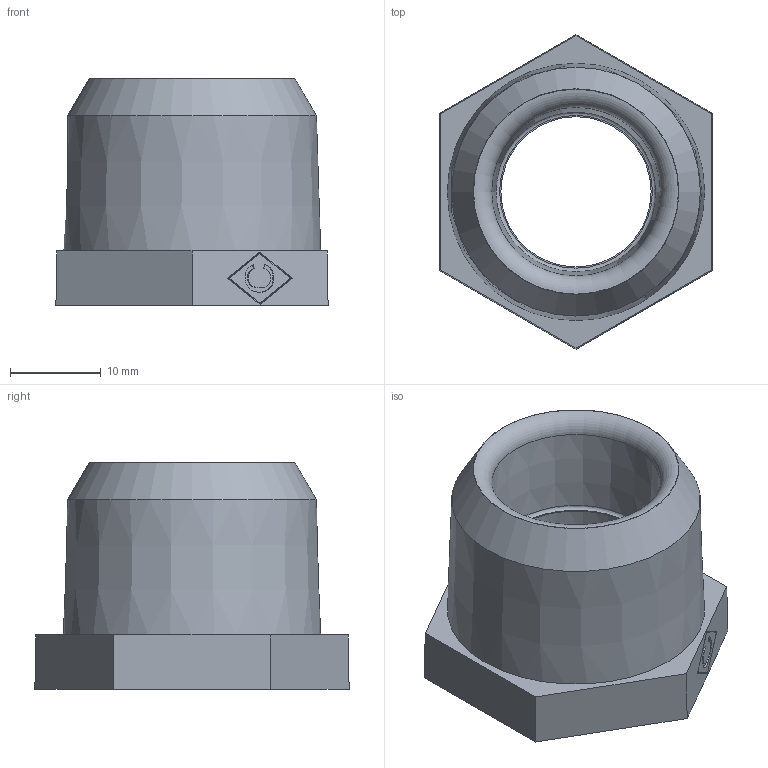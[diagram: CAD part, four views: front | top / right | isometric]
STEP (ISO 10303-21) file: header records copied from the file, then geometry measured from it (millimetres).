
FILE_DESCRIPTION((''),'2;1');
FILE_NAME('P:\Fastrack\53909_CRANE\Crane\Fig.140 Hexagon Bush\0.75 inch\140-0.75x0.5.stp','2009-09-10T16:02:08',('btaylor'),(''),'Autodesk Inventor 2008','Autodesk Inventor 2008','');
FILE_SCHEMA(('AUTOMOTIVE_DESIGN { 1 0 10303 214 1 1 1 1 }'));
Length unit declared in the file: millimetre
Products named in the file (1): 140-0.75x0.50
Bounding box: 30 x 34.64 x 25 mm (x, y, z)
Volume: 9385.4 mm3; surface area: 4388.3 mm2
Topology: 1 solids, 1 shells, 38 faces, 89 edges, 58 vertices
Faces by surface type: plane 23, bspline 9, cone 5, torus 1
Entity records: 1181 total; most frequent: CARTESIAN_POINT 343, ORIENTED_EDGE 164, DIRECTION 136, EDGE_CURVE 82, VERTEX_POINT 58, VECTOR 56, LINE 56, EDGE_LOOP 52
